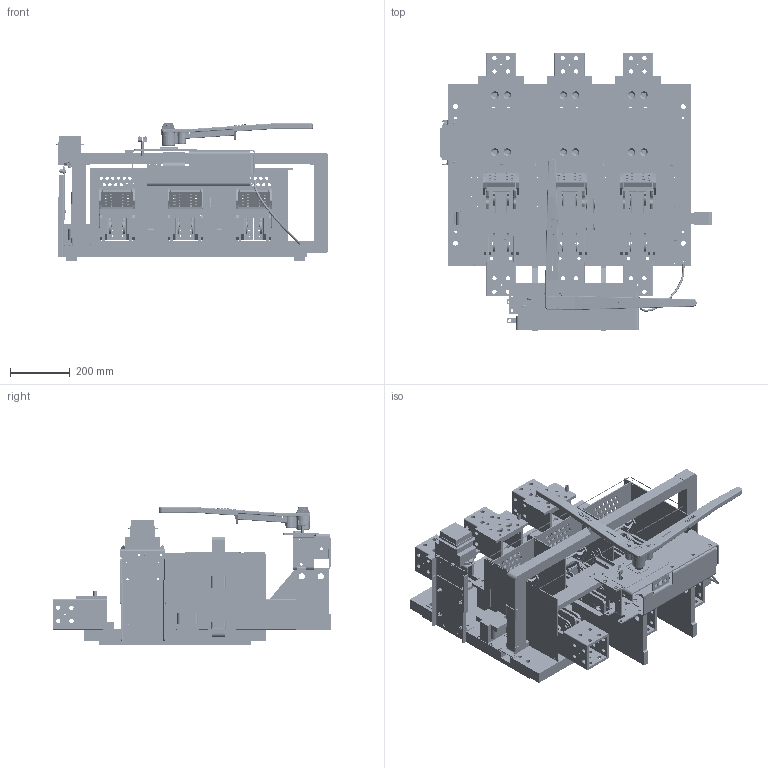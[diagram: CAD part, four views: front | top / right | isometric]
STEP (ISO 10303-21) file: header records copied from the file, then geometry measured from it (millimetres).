
FILE_DESCRIPTION(/* description */ (''),/* implementation_level */ '2;1');
FILE_NAME(/* name */ 'H:\switches\3d-templates\catalog-switches-iges-files\CATALOG-SLB3413G5.stp',/* time_stamp */ '2022-03-18T15:32:46-05:00',/* author */ ('MKingston'),/* organization */ (''),/* preprocessor_version */ 'ST-DEVELOPER v18.1',/* originating_system */ 'Autodesk Inventor 2022',/* authorisation */ '');
FILE_SCHEMA (('AUTOMOTIVE_DESIGN { 1 0 10303 214 3 1 1 }'));
Products named in the file (59): CATALOG-SLB3413G6; 727-slb-g6; 701-b; 702-CN; 703-b; 704; 708-arc-chute-assy; 50-ql; 50-qr; 709; CATALOG-4000-blade-assy; 705-b; 705-a; 705-c; 67-j; 69-gc3; 69-gd3; 67-fc3; 237; 672-a; 800-bck2; 800-fck-1; 246-f; 221-kpa; 452; 481-a; bf-gfr-1-mounting-assembly; 277-L1B; 277-l2; 277-l3; 277-l4; gfr-1; Bolted Connection; ANSI B18.6.3 - 10 - 32 x 3/4 SR HMS; ANSI B18.22.1 - No. 10 - Type A; ASME B18.21.1 - No. 10. Carbon Steel, ETLWTB(1); ANSI B18.2.2 - 10 - 32, HMSNI; Bolted Connection_1; ANSI B18.5 - 1/4-20 UNC - 0.75, RHBI; ASTM F436 - 1/4, CW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
Assembly tree (111 placements, depth 4):
  CATALOG-SLB3413G6
    727-slb-g6
    701-b  x3
    702-CN  x3
    703-b  x3
    704  x6
    708-arc-chute-assy  x3
      50-ql
      50-qr
      709
    CATALOG-4000-blade-assy  x3
      705-c
      705-b
      67-j
      705-a
      67-fc3
      69-gc3
      69-gd3
    237
    672-a  x2
    800-bck2
    800-fck-1
    246-f  x2
    221-kpa
    452
    481-a
    bf-gfr-1-mounting-assembly
      277-L1B
      277-l2
      277-l3
      277-l4
      gfr-1
      Bolted Connection
        ANSI B18.22.1 - No. 10 - Type A  x4
        ASME B18.21.1 - No. 10. Carbon Steel, ETLWTB(1)  x4
        ANSI B18.6.3 - 10 - 32 x 3/4 SR HMS  x2
        ANSI B18.2.2 - 10 - 32, HMSNI  x2
      Bolted Connection_1
        ANSI B18.5 - 1/4-20 UNC - 0.75, RHBI  x6
        ASTM F436 - 1/4, CW  x6
        ASME B18.21.1 - 1/4. Carbon Steel, HITLWTB(1)  x6
        ANSI B18.2.2 - 1/4 - 20, HNI  x6
    sl-slb-gfi-ring-assembly
      GFS10X30
      277-ma
    transformer
    230-a
    257-bb  x2
    257-ba  x2
    257-ca
    257-da
    672-E
    wire-connector  x2
    slb3413g6.Harness1
      slb3413g6.Harness1_1
    67-ZBA  x3
    223-d-transparent
    223-d-transparent-red
    223-FE
Bounding box: 912.4 x 927.1 x 459.94 mm (x, y, z)
Volume: 37108078.6 mm3; surface area: 6186170.9 mm2
Topology: 136 solids, 138 shells, 5082 faces, 13598 edges, 8851 vertices
Faces by surface type: plane 2387, cylinder 2252, cone 193, bspline 176, torus 66, sphere 8
Full cylindrical faces by diameter (mm): 1.702 x8, 3.302 x14, 3.556 x9, 3.569 x2, 3.658 x8, 3.962 x11, 4.089 x4, 4.343 x84, 4.366 x2, 4.496 x36, 4.572 x12, 4.653 x4, 4.762 x4, 4.775 x8, 4.826 x2, 4.902 x16, 4.928 x16, 4.953 x4, 4.978 x36, 5.08 x2, 5.462 x4, 5.537 x5, 5.556 x3, 5.563 x10, 5.791 x12, 6.35 x20, 6.528 x49, 7.137 x8, 7.144 x14, 7.798 x4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
Entity records: 96957 total; most frequent: CARTESIAN_POINT 25650, DIRECTION 14179, ORIENTED_EDGE 14108, EDGE_CURVE 7065, AXIS2_PLACEMENT_3D 4991, VERTEX_POINT 4568, LINE 4197, VECTOR 4197
